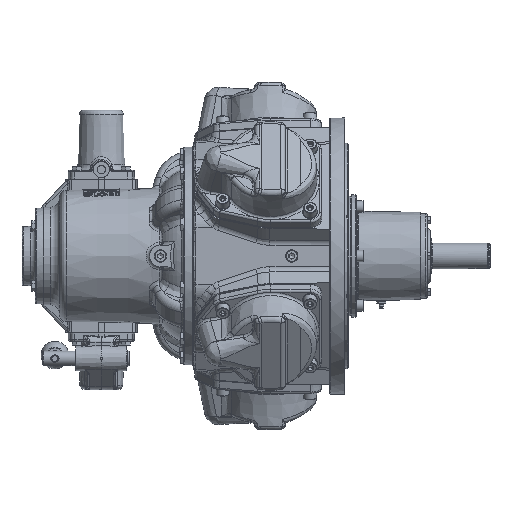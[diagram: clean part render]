
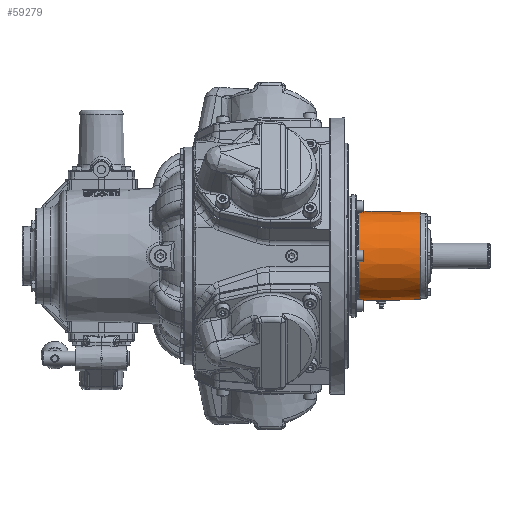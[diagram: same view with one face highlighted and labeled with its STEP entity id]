
A CAD part, front view. The second image highlights one B-rep face of the part: STEP entity #59279.
In plain terms, the highlighted conical face has half-angle 1 degrees and reference radius 60 mm.
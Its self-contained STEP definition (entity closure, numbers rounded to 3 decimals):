
#588 = CARTESIAN_POINT ( 'NONE',  ( 156.469, -1.503, -60.896 ) ) ;
#10937 = CARTESIAN_POINT ( 'NONE',  ( 153.487, 4.461, -60.802 ) ) ;
#11946 = CARTESIAN_POINT ( 'NONE',  ( 148.863, 3.529, -60.945 ) ) ;
#12975 = CARTESIAN_POINT ( 'NONE',  ( 156.706, 0.322, -60.909 ) ) ;
#14006 = CARTESIAN_POINT ( 'NONE',  ( 149.915, -4.227, -60.881 ) ) ;
#15038 = CARTESIAN_POINT ( 'NONE',  ( 147.507, 1.497, -61.052 ) ) ;
#15901 = EDGE_CURVE ( 'NONE', #167665, #167665, #102846, .T. ) ;
#16034 = CARTESIAN_POINT ( 'NONE',  ( 149.13, -3.746, -60.927 ) ) ;
#17038 = CARTESIAN_POINT ( 'NONE',  ( 147.906, -2.372, -61.017 ) ) ;
#18451 = CIRCLE ( 'NONE', #34901, 60.059 ) ;
#18909 = ORIENTED_EDGE ( 'NONE', *, *, #15901, .F. ) ;
#20833 = CARTESIAN_POINT ( 'NONE',  ( 205.4, 0., -60.059 ) ) ;
#22845 = CARTESIAN_POINT ( 'NONE',  ( 120.765, 0., -61.537 ) ) ;
#25382 = CARTESIAN_POINT ( 'NONE',  ( 150.454, 4.449, -60.856 ) ) ;
#28385 = CARTESIAN_POINT ( 'NONE',  ( 148.424, 3.09, -60.976 ) ) ;
#30424 = CARTESIAN_POINT ( 'NONE',  ( 155.744, -2.858, -60.86 ) ) ;
#31433 = CARTESIAN_POINT ( 'NONE',  ( 147.52, -1.535, -61.051 ) ) ;
#32444 = CARTESIAN_POINT ( 'NONE',  ( 156.559, -1.206, -60.901 ) ) ;
#32562 = AXIS2_PLACEMENT_3D ( 'NONE', #130708, #116337, #117364 ) ;
#34901 = AXIS2_PLACEMENT_3D ( 'NONE', #103624, #68701, #165298 ) ;
#40044 = ORIENTED_EDGE ( 'NONE', *, *, #158017, .T. ) ;
#45847 = CARTESIAN_POINT ( 'NONE',  ( 147.742, 2.067, -61.031 ) ) ;
#46857 = CARTESIAN_POINT ( 'NONE',  ( 156.088, -2.344, -60.876 ) ) ;
#47881 = CARTESIAN_POINT ( 'NONE',  ( 147.428, -1.239, -61.059 ) ) ;
#50615 = FACE_BOUND ( 'NONE', #103159, .T. ) ;
#50754 = DIRECTION ( 'NONE',  ( -1., 0., 0. ) ) ;
#52243 = CONICAL_SURFACE ( 'NONE', #32562, 60., 0.017 ) ;
#58188 = CARTESIAN_POINT ( 'NONE',  ( 150.747, 4.538, -60.844 ) ) ;
#59279 = ADVANCED_FACE ( 'NONE', ( #50615, #97860, #145030 ), #52243, .T. ) ;
#60188 = CARTESIAN_POINT ( 'NONE',  ( 151.693, -4.695, -60.816 ) ) ;
#62243 = CARTESIAN_POINT ( 'NONE',  ( 150.785, -4.548, -60.843 ) ) ;
#63243 = CARTESIAN_POINT ( 'NONE',  ( 151.387, -4.665, -60.824 ) ) ;
#68701 = DIRECTION ( 'NONE',  ( -1., 0., 0. ) ) ;
#71561 = CARTESIAN_POINT ( 'NONE',  ( 152.581, 4.667, -60.803 ) ) ;
#75618 = CARTESIAN_POINT ( 'NONE',  ( 149.644, -4.084, -60.896 ) ) ;
#76213 = EDGE_CURVE ( 'NONE', #182548, #182548, #134842, .T. ) ;
#78633 = CARTESIAN_POINT ( 'NONE',  ( 154.873, -3.728, -60.827 ) ) ;
#79645 = CARTESIAN_POINT ( 'NONE',  ( 155.55, -3.095, -60.851 ) ) ;
#88011 = CARTESIAN_POINT ( 'NONE',  ( 149.885, 4.212, -60.883 ) ) ;
#91007 = CARTESIAN_POINT ( 'NONE',  ( 147.27, 0.287, -61.074 ) ) ;
#93075 = CARTESIAN_POINT ( 'NONE',  ( 156.221, 2.098, -60.882 ) ) ;
#93298 = EDGE_LOOP ( 'NONE', ( #40044 ) ) ;
#94111 = CARTESIAN_POINT ( 'NONE',  ( 148.254, -2.884, -60.989 ) ) ;
#95121 = CARTESIAN_POINT ( 'NONE',  ( 155.531, 3.116, -60.85 ) ) ;
#97860 = FACE_BOUND ( 'NONE', #93298, .T. ) ;
#101396 = CARTESIAN_POINT ( 'NONE',  ( 153.189, 4.55, -60.801 ) ) ;
#102846 = CIRCLE ( 'NONE', #155297, 61.537 ) ;
#103159 = EDGE_LOOP ( 'NONE', ( #121861 ) ) ;
#103453 = CARTESIAN_POINT ( 'NONE',  ( 151.35, 4.66, -60.825 ) ) ;
#103624 = CARTESIAN_POINT ( 'NONE',  ( 205.4, 0., 0. ) ) ;
#106465 = CARTESIAN_POINT ( 'NONE',  ( 153.222, -4.541, -60.801 ) ) ;
#108526 = CARTESIAN_POINT ( 'NONE',  ( 154.091, -4.214, -60.809 ) ) ;
#109538 = CARTESIAN_POINT ( 'NONE',  ( 156.235, -2.069, -60.883 ) ) ;
#110554 = CARTESIAN_POINT ( 'NONE',  ( 155.727, 2.88, -60.859 ) ) ;
#115412 = VERTEX_POINT ( 'NONE', #20833 ) ;
#116337 = DIRECTION ( 'NONE',  ( -1., 0., 0. ) ) ;
#117364 = DIRECTION ( 'NONE',  ( 0., 0., -1. ) ) ;
#118921 = CARTESIAN_POINT ( 'NONE',  ( 154.329, 4.087, -60.814 ) ) ;
#121861 = ORIENTED_EDGE ( 'NONE', *, *, #76213, .T. ) ;
#121928 = CARTESIAN_POINT ( 'NONE',  ( 156.551, 1.236, -60.9 ) ) ;
#123901 = EDGE_LOOP ( 'NONE', ( #18909 ) ) ;
#123934 = CARTESIAN_POINT ( 'NONE',  ( 156.674, 0.633, -60.907 ) ) ;
#124966 = CARTESIAN_POINT ( 'NONE',  ( 148.229, 2.852, -60.991 ) ) ;
#125961 = CARTESIAN_POINT ( 'NONE',  ( 152.62, -4.661, -60.802 ) ) ;
#127787 = DIRECTION ( 'NONE',  ( 0., 0., -1. ) ) ;
#130708 = CARTESIAN_POINT ( 'NONE',  ( 208.8, 0., 0. ) ) ;
#134842 = B_SPLINE_CURVE_WITH_KNOTS ( 'NONE', 3,
 ( #166136, #137257, #168169, #118921, #136240, #10937, #101396, #71561, #181510, #198996, #103453, #58188, #25382, #88011, #183552, #152633, #11946, #28385, #124966, #139283, #45847, #15038, #154711, #169181, #91007, #156713, #202005, #47881, #31433, #157744, #17038, #94111, #203025, #141302, #16034, #75618, #14006, #153690, #62243, #63243, #60188, #138272, #125961, #106465, #173250, #108526, #140293, #78633, #187668, #79645, #30424, #46857, #109538, #588, #32444, #184582, #172230, #12975, #123934, #121928, #201012, #93075, #188671, #110554, #95121, #142310 ),
 .UNSPECIFIED., .T., .F.,
 ( 4, 2, 2, 2, 2, 2, 2, 2, 2, 2, 2, 2, 2, 2, 2, 2, 2, 2, 2, 2, 2, 2, 2, 2, 2, 2, 2, 2, 2, 2, 2, 2, 4 ),
 ( 0., 0.001, 0.002, 0.003, 0.004, 0.005, 0.006, 0.006, 0.007, 0.008, 0.009, 0.01, 0.011, 0.012, 0.013, 0.014, 0.015, 0.016, 0.017, 0.018, 0.019, 0.019, 0.02, 0.021, 0.022, 0.023, 0.024, 0.025, 0.026, 0.027, 0.028, 0.029, 0.03 ),
 .UNSPECIFIED. ) ;
#136240 = CARTESIAN_POINT ( 'NONE',  ( 154.055, 4.231, -60.809 ) ) ;
#137257 = CARTESIAN_POINT ( 'NONE',  ( 155.088, 3.553, -60.834 ) ) ;
#138272 = CARTESIAN_POINT ( 'NONE',  ( 152.314, -4.693, -60.805 ) ) ;
#139283 = CARTESIAN_POINT ( 'NONE',  ( 147.889, 2.342, -61.019 ) ) ;
#140293 = CARTESIAN_POINT ( 'NONE',  ( 154.361, -4.069, -60.815 ) ) ;
#141302 = CARTESIAN_POINT ( 'NONE',  ( 148.887, -3.55, -60.943 ) ) ;
#141319 = CARTESIAN_POINT ( 'NONE',  ( 155.31, 3.334, -60.842 ) ) ;
#142310 = CARTESIAN_POINT ( 'NONE',  ( 155.31, 3.334, -60.842 ) ) ;
#145030 = FACE_OUTER_BOUND ( 'NONE', #123901, .T. ) ;
#152633 = CARTESIAN_POINT ( 'NONE',  ( 149.1, 3.724, -60.929 ) ) ;
#153690 = CARTESIAN_POINT ( 'NONE',  ( 150.486, -4.46, -60.855 ) ) ;
#154711 = CARTESIAN_POINT ( 'NONE',  ( 147.418, 1.203, -61.06 ) ) ;
#155297 = AXIS2_PLACEMENT_3D ( 'NONE', #157576, #50754, #127787 ) ;
#156713 = CARTESIAN_POINT ( 'NONE',  ( 147.272, -0.327, -61.074 ) ) ;
#157576 = CARTESIAN_POINT ( 'NONE',  ( 120.765, 0., 0. ) ) ;
#157744 = CARTESIAN_POINT ( 'NONE',  ( 147.758, -2.099, -61.03 ) ) ;
#158017 = EDGE_CURVE ( 'NONE', #115412, #115412, #18451, .T. ) ;
#165298 = DIRECTION ( 'NONE',  ( 0., 0., -1. ) ) ;
#166136 = CARTESIAN_POINT ( 'NONE',  ( 155.31, 3.334, -60.842 ) ) ;
#167665 = VERTEX_POINT ( 'NONE', #22845 ) ;
#168169 = CARTESIAN_POINT ( 'NONE',  ( 154.848, 3.747, -60.827 ) ) ;
#169181 = CARTESIAN_POINT ( 'NONE',  ( 147.299, 0.599, -61.071 ) ) ;
#172230 = CARTESIAN_POINT ( 'NONE',  ( 156.708, -0.293, -60.909 ) ) ;
#173250 = CARTESIAN_POINT ( 'NONE',  ( 153.52, -4.45, -60.802 ) ) ;
#181510 = CARTESIAN_POINT ( 'NONE',  ( 152.275, 4.695, -60.806 ) ) ;
#182548 = VERTEX_POINT ( 'NONE', #141319 ) ;
#183552 = CARTESIAN_POINT ( 'NONE',  ( 149.61, 4.065, -60.898 ) ) ;
#184582 = CARTESIAN_POINT ( 'NONE',  ( 156.679, -0.598, -60.908 ) ) ;
#187668 = CARTESIAN_POINT ( 'NONE',  ( 155.115, -3.529, -60.835 ) ) ;
#188671 = CARTESIAN_POINT ( 'NONE',  ( 156.072, 2.372, -60.875 ) ) ;
#198996 = CARTESIAN_POINT ( 'NONE',  ( 151.661, 4.692, -60.817 ) ) ;
#201012 = CARTESIAN_POINT ( 'NONE',  ( 156.46, 1.529, -60.895 ) ) ;
#202005 = CARTESIAN_POINT ( 'NONE',  ( 147.304, -0.632, -61.071 ) ) ;
#203025 = CARTESIAN_POINT ( 'NONE',  ( 148.45, -3.119, -60.974 ) ) ;
